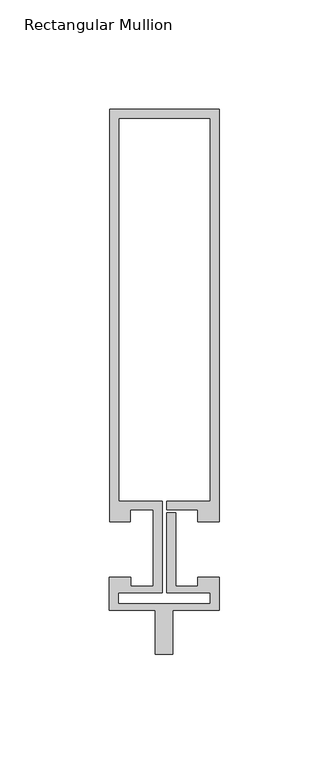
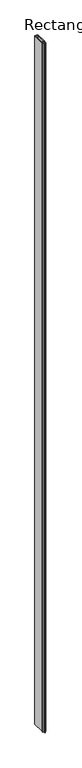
"""IFC4 building model written with IfcOpenShell, lengths in millimetres: member geometry, Rectangular Mullion : Reynaers_CW-50_Transom-Transom_188.5mm_Facecap-06A."""

from ifc_helpers import new_model, si_unit, frame, origin, place, context, project, spatial, polyline, outline, extrude, source, transform, mapped, element, save


def rectangular_mullion_952e1606(model_context):
    return source(origin(), model_context, "Body", "SweptSolid", [
        extrude(outline(polyline([(25.1995941, 12.7331291), (15.499, 12.7331291), (15.499, 18.1331291), (1.2995941, 18.1331291), (1.2995941, 22.1331291), (21.1995941, 22.1331291), (21.1995941, 197.2331291), (-20.8004059, 197.2331291), (-20.8004059, 22.1331291), (-0.9004059, 22.1331291), (-0.9004059, -19.7331291), (-20.994845, -19.7331291), (-20.994845, -24.6522629), (21.1995941, -24.6522629), (21.1995941, -19.7331291), (1.2995941, -19.7331291), (1.2995941, 16.7615089), (5.2995941, 16.7615089), (5.2995941, -16.7331291), (15.2996495, -16.7331291), (15.2996495, -12.7331291), (25.1995941, -12.7331291), (25.1995941, -27.7331291), (4.004855, -27.7331291), (4.004855, -47.7331291), (-3.995145, -47.7331291), (-3.995145, -27.7331291), (-24.994845, -27.7331291), (-24.994845, -12.7331291), (-15.2996495, -12.7331291), (-15.2996495, -16.7331291), (-4.9004059, -16.7331291), (-4.9004059, 18.1331291), (-15.499, 18.1331291), (-15.499, 12.7331291), (-24.8004059, 12.7331291), (-24.8004059, 201.2331291), (25.1995941, 201.2331291), (25.1995941, 12.7331291)])), frame((0.0, 0.0, -12000.0), z_axis=(0.0, 0.0, 1.0), x_axis=(1.0, 0.0, 0.0)), (0.0, 0.0, 1.0), 12000.0),
    ])


if __name__ == "__main__":
    model = new_model("IFC4")
    model_context = context("Model", 3, world=origin())
    ifc_project = project(units=[si_unit("LENGTHUNIT", "METRE", prefix="MILLI")], contexts=[model_context])
    site = spatial("IfcSite", under=ifc_project)
    building = spatial("IfcBuilding", under=site)
    placement = place(None, origin())
    rectangular_mullion_shape = rectangular_mullion_952e1606(model_context)
    element("IfcMember", 1, ObjectType="Rectangular Mullion : Reynaers_CW-50_Transom-Transom_188.5mm_Facecap-06A", at=placement, inside=building, context=model_context, shape_type="MappedRepresentation", body=[
        mapped(rectangular_mullion_shape, transform((0.0, 0.0, 0.0), x_axis=(1.0, 0.0, 0.0), y_axis=(0.0, 1.0, 0.0), z_axis=(0.0, 0.0, 1.0))),
    ])
    save(model, "model.ifc")
